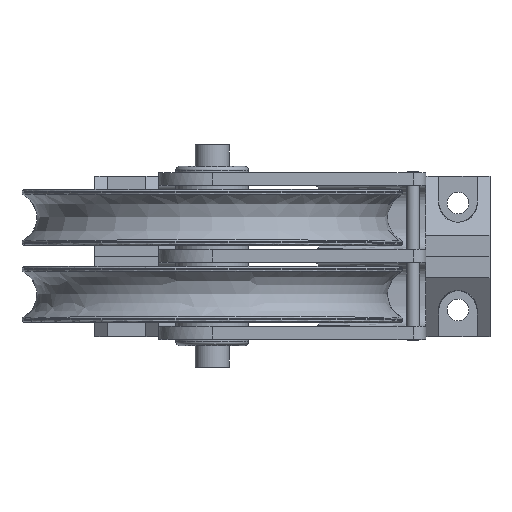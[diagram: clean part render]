
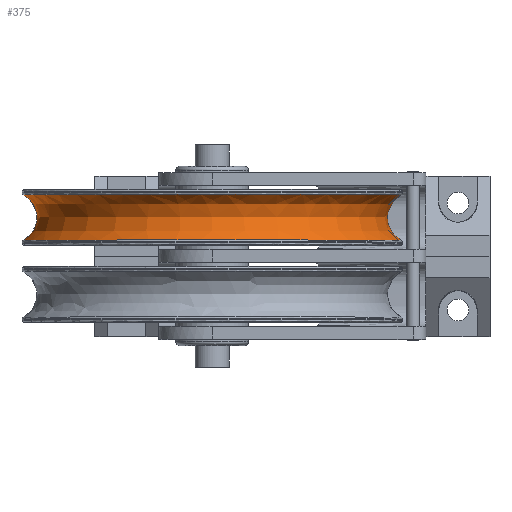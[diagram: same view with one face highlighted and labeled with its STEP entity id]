
A CAD part, top view. The second image highlights one B-rep face of the part: STEP entity #375.
In plain terms, the highlighted free-form (B-spline) face has degree [2, 2] with [5, 5] control points.
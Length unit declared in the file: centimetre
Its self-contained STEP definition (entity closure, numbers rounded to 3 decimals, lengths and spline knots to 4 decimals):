
#375=ADVANCED_FACE('',(#884),#6153,.T.);
#884=FACE_OUTER_BOUND('',#1421,.T.);
#1421=EDGE_LOOP('',(#2380,#2381,#2382,#2383));
#2380=ORIENTED_EDGE('',*,*,#4556,.T.);
#2381=ORIENTED_EDGE('',*,*,#4466,.T.);
#2382=ORIENTED_EDGE('',*,*,#4558,.F.);
#2383=ORIENTED_EDGE('',*,*,#4557,.F.);
#4466=EDGE_CURVE('',#5542,#5543,#6715,.T.);
#4556=EDGE_CURVE('',#5596,#5542,#6773,.T.);
#4557=EDGE_CURVE('',#5596,#5597,#6774,.T.);
#4558=EDGE_CURVE('',#5597,#5543,#6775,.T.);
#5542=VERTEX_POINT('',#11032);
#5543=VERTEX_POINT('',#11033);
#5596=VERTEX_POINT('',#11086);
#5597=VERTEX_POINT('',#11087);
#6153=(
BOUNDED_SURFACE()
B_SPLINE_SURFACE(2,2,((#10383,#10384,#10385,#10386,#10387),(#10388,#10389,
#10390,#10391,#10392),(#10393,#10394,#10395,#10396,#10397),(#10398,#10399,
#10400,#10401,#10402),(#10403,#10404,#10405,#10406,#10407)),.UNSPECIFIED.,
.F.,.F.,.F.)
B_SPLINE_SURFACE_WITH_KNOTS((3,2,3),(3,2,3),(43.4559,56.5487,
69.6415),(0.,1.5708,3.1416),.UNSPECIFIED.)
GEOMETRIC_REPRESENTATION_ITEM()
RATIONAL_B_SPLINE_SURFACE(((1.,0.707,1.,0.707,1.),
(0.855,0.604,0.855,0.604,0.855),
(1.,0.707,1.,0.707,1.),(0.855,0.604,
0.855,0.604,0.855),(1.,0.707,
1.,0.707,1.)))
REPRESENTATION_ITEM('')
SURFACE()
);
#6715=(
BOUNDED_CURVE()
B_SPLINE_CURVE(2,(#9649,#9650,#9651,#9652,#9653),.UNSPECIFIED.,.F.,.F.)
B_SPLINE_CURVE_WITH_KNOTS((3,2,3),(43.4559,56.5487,69.6415),
.UNSPECIFIED.)
CURVE()
GEOMETRIC_REPRESENTATION_ITEM()
RATIONAL_B_SPLINE_CURVE((1.,0.855,1.,0.855,1.))
REPRESENTATION_ITEM('')
);
#6773=(
BOUNDED_CURVE()
B_SPLINE_CURVE(2,(#9987,#9988,#9989,#9990,#9991),.UNSPECIFIED.,.F.,.F.)
B_SPLINE_CURVE_WITH_KNOTS((3,2,3),(-3.1416,-1.5708,0.),
.UNSPECIFIED.)
CURVE()
GEOMETRIC_REPRESENTATION_ITEM()
RATIONAL_B_SPLINE_CURVE((1.,0.707,1.,0.707,1.))
REPRESENTATION_ITEM('')
);
#6774=(
BOUNDED_CURVE()
B_SPLINE_CURVE(2,(#9992,#9993,#9994,#9995,#9996),.UNSPECIFIED.,.F.,.F.)
B_SPLINE_CURVE_WITH_KNOTS((3,2,3),(43.4559,56.5487,69.6415),
.UNSPECIFIED.)
CURVE()
GEOMETRIC_REPRESENTATION_ITEM()
RATIONAL_B_SPLINE_CURVE((1.,0.855,1.,0.855,1.))
REPRESENTATION_ITEM('')
);
#6775=(
BOUNDED_CURVE()
B_SPLINE_CURVE(2,(#9997,#9998,#9999,#10000,#10001),.UNSPECIFIED.,.F.,.F.)
B_SPLINE_CURVE_WITH_KNOTS((3,2,3),(-3.1416,-1.5708,0.),
.UNSPECIFIED.)
CURVE()
GEOMETRIC_REPRESENTATION_ITEM()
RATIONAL_B_SPLINE_CURVE((1.,0.707,1.,0.707,1.))
REPRESENTATION_ITEM('')
);
#9649=CARTESIAN_POINT('',(-25.1385,-2.5684,126.4999));
#9650=CARTESIAN_POINT('',(-31.6,0.7933,126.4999));
#9651=CARTESIAN_POINT('',(-31.6,8.077,126.4999));
#9652=CARTESIAN_POINT('',(-31.6,15.3607,126.4999));
#9653=CARTESIAN_POINT('',(-25.1385,18.7224,126.4999));
#9987=CARTESIAN_POINT('',(-202.0615,-2.5684,126.4999));
#9988=CARTESIAN_POINT('',(-202.0615,-2.5684,214.9615));
#9989=CARTESIAN_POINT('',(-113.6,-2.5684,214.9615));
#9990=CARTESIAN_POINT('',(-25.1385,-2.5684,214.9615));
#9991=CARTESIAN_POINT('',(-25.1385,-2.5684,126.4999));
#9992=CARTESIAN_POINT('',(-202.0615,-2.5684,126.4999));
#9993=CARTESIAN_POINT('',(-195.6,0.7933,126.4999));
#9994=CARTESIAN_POINT('',(-195.6,8.077,126.4999));
#9995=CARTESIAN_POINT('',(-195.6,15.3607,126.4999));
#9996=CARTESIAN_POINT('',(-202.0615,18.7224,126.4999));
#9997=CARTESIAN_POINT('',(-202.0615,18.7224,126.4999));
#9998=CARTESIAN_POINT('',(-202.0615,18.7224,214.9615));
#9999=CARTESIAN_POINT('',(-113.6,18.7224,214.9615));
#10000=CARTESIAN_POINT('',(-25.1385,18.7224,214.9615));
#10001=CARTESIAN_POINT('',(-25.1385,18.7224,126.4999));
#10383=CARTESIAN_POINT('',(-25.1385,-2.5684,126.4999));
#10384=CARTESIAN_POINT('',(-25.1385,-2.5684,214.9615));
#10385=CARTESIAN_POINT('',(-113.6,-2.5684,214.9615));
#10386=CARTESIAN_POINT('',(-202.0615,-2.5684,214.9615));
#10387=CARTESIAN_POINT('',(-202.0615,-2.5684,126.4999));
#10388=CARTESIAN_POINT('',(-31.6,0.7933,126.4999));
#10389=CARTESIAN_POINT('',(-31.6,0.7933,208.4999));
#10390=CARTESIAN_POINT('',(-113.6,0.7933,208.4999));
#10391=CARTESIAN_POINT('',(-195.6,0.7933,208.4999));
#10392=CARTESIAN_POINT('',(-195.6,0.7933,126.4999));
#10393=CARTESIAN_POINT('',(-31.6,8.077,126.4999));
#10394=CARTESIAN_POINT('',(-31.6,8.077,208.4999));
#10395=CARTESIAN_POINT('',(-113.6,8.077,208.4999));
#10396=CARTESIAN_POINT('',(-195.6,8.077,208.4999));
#10397=CARTESIAN_POINT('',(-195.6,8.077,126.4999));
#10398=CARTESIAN_POINT('',(-31.6,15.3607,126.4999));
#10399=CARTESIAN_POINT('',(-31.6,15.3607,208.4999));
#10400=CARTESIAN_POINT('',(-113.6,15.3607,208.4999));
#10401=CARTESIAN_POINT('',(-195.6,15.3607,208.4999));
#10402=CARTESIAN_POINT('',(-195.6,15.3607,126.4999));
#10403=CARTESIAN_POINT('',(-25.1385,18.7224,126.4999));
#10404=CARTESIAN_POINT('',(-25.1385,18.7224,214.9615));
#10405=CARTESIAN_POINT('',(-113.6,18.7224,214.9615));
#10406=CARTESIAN_POINT('',(-202.0615,18.7224,214.9615));
#10407=CARTESIAN_POINT('',(-202.0615,18.7224,126.4999));
#11032=CARTESIAN_POINT('',(-25.1385,-2.5684,126.4999));
#11033=CARTESIAN_POINT('',(-25.1385,18.7224,126.4999));
#11086=CARTESIAN_POINT('',(-202.0615,-2.5684,126.4999));
#11087=CARTESIAN_POINT('',(-202.0615,18.7224,126.4999));
